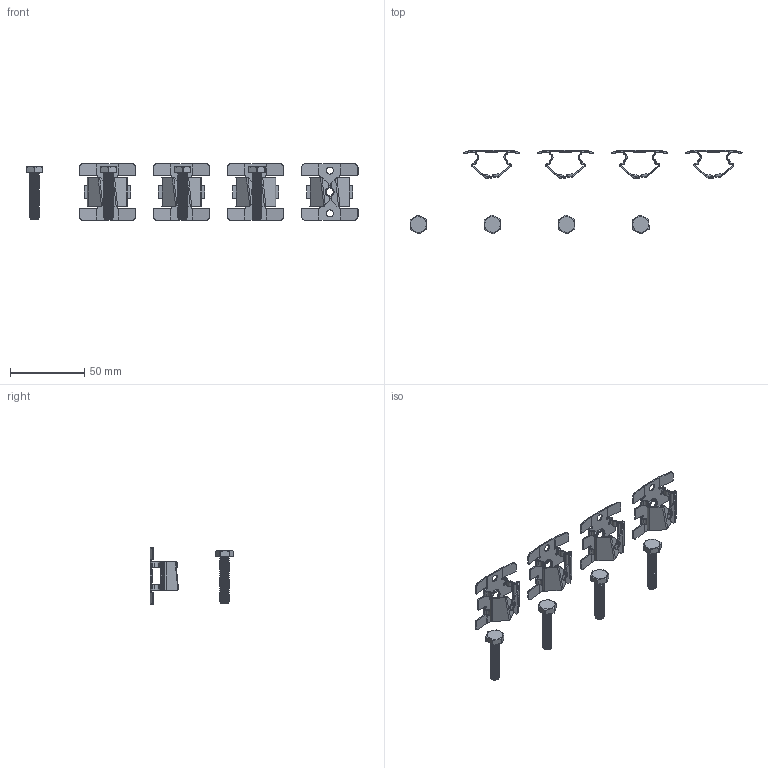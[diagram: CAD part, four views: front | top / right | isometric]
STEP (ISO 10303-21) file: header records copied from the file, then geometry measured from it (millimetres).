
FILE_DESCRIPTION (( 'STEP AP214' ), '1' );
FILE_NAME ('4qcnkit.STEP', '2024-04-05T15:04:27', ( '' ), ( '' ), 'SwSTEP 2.0', 'SolidWorks 2020', '' );
FILE_SCHEMA (( 'AUTOMOTIVE_DESIGN' ));
Length unit declared in the file: millimetre
Products named in the file (3): 89222178; 89222177; 4qcnkit
Assembly tree (8 placements, depth 2):
  4qcnkit
    89222177  x4
    89222178  x4
Bounding box: 223.95 x 56.53 x 38.1 mm (x, y, z)
Volume: 11228.2 mm3; surface area: 21422.7 mm2
Topology: 8 solids, 8 shells, 2148 faces, 5268 edges, 3128 vertices
Faces by surface type: cylinder 952, plane 512, cone 452, bspline 216, torus 16
Entity records: 24225 total; most frequent: CARTESIAN_POINT 12170, ORIENTED_EDGE 2634, DIRECTION 2325, EDGE_CURVE 1317, AXIS2_PLACEMENT_3D 854, VERTEX_POINT 782, LINE 617, VECTOR 617
